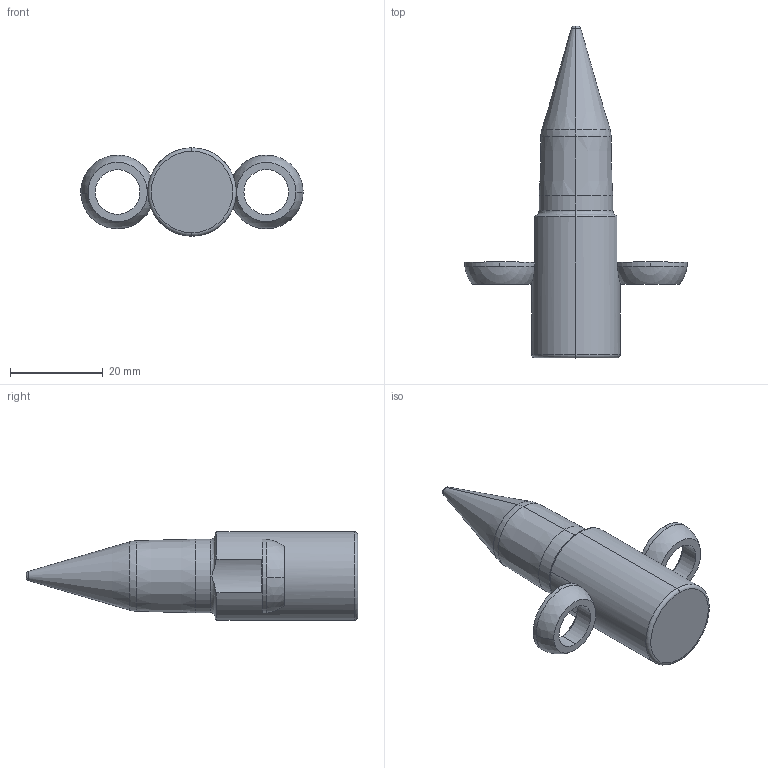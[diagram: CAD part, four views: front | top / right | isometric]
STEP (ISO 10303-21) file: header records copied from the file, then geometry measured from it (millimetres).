
FILE_DESCRIPTION (( 'STEP AP214' ), '1' );
FILE_NAME ('PA-T-.625-.125-0.5-3-A-F2.STEP', '2019-05-08T17:40:41', ( '' ), ( '' ), 'SwSTEP 2.0', 'SolidWorks 2017', '' );
FILE_SCHEMA (( 'AUTOMOTIVE_DESIGN' ));
Length unit declared in the file: inch
Products named in the file (3): SLRadiusWasher_RadiusWasher-E; SLPilot-PA-T-E_PA-T-.625-.125-0.5-3-A-F2; PA-T-.625-.125-0.5-3-A-F2
Assembly tree (3 placements, depth 2):
  PA-T-.625-.125-0.5-3-A-F2
    SLPilot-PA-T-E_PA-T-.625-.125-0.5-3-A-F2
    SLRadiusWasher_RadiusWasher-E  x2
Bounding box: 47.87 x 71.45 x 19.05 mm (x, y, z)
Volume: 14482.6 mm3; surface area: 4761.6 mm2
Topology: 3 solids, 3 shells, 49 faces, 112 edges, 69 vertices
Faces by surface type: cylinder 14, torus 11, sphere 8, cone 8, plane 8
Entity records: 1384 total; most frequent: CARTESIAN_POINT 332, DIRECTION 232, ORIENTED_EDGE 180, AXIS2_PLACEMENT_3D 107, EDGE_CURVE 90, CIRCLE 62, VERTEX_POINT 55, EDGE_LOOP 41
